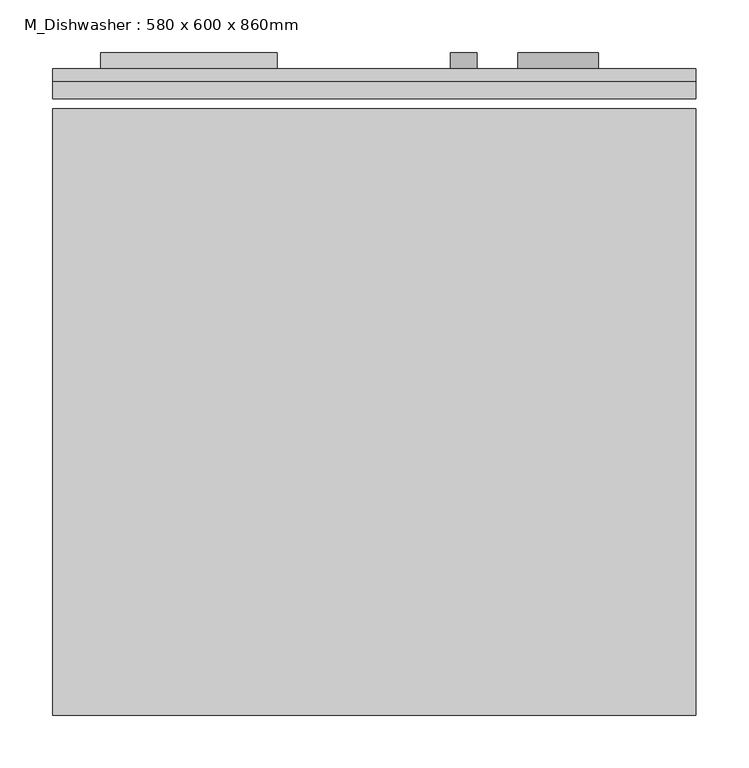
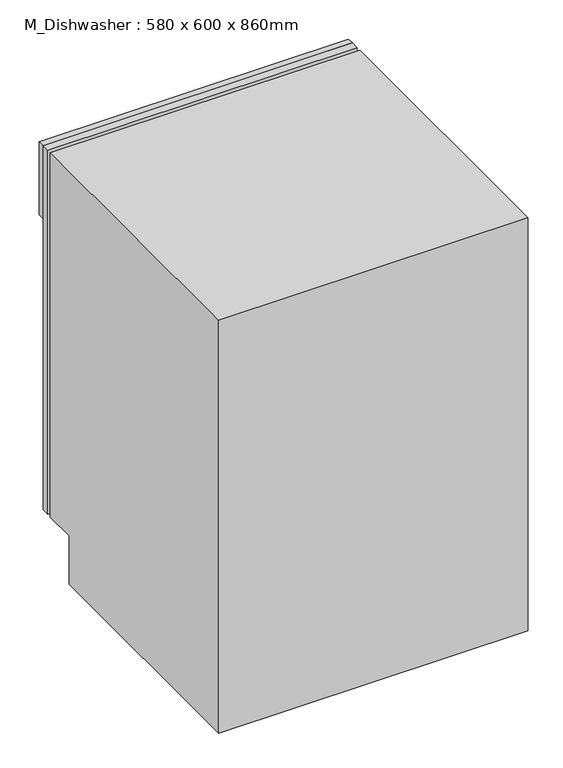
"""IFC4 building model written with IfcOpenShell, lengths in millimetres: proxy geometry, M_Dishwasher : 580 x 600 x 860mm."""

from ifc_helpers import new_model, si_unit, point, frame, frame_2d, origin, place, context, project, spatial, polyline, circle_curve, trimmed, segment, composite_curve, outline, extrude, source, transform, mapped, element, save


def m_dishwasher_580_x_600_x_860mm_caf0502a(model_context):
    return source(origin(), model_context, "Body", "SweptSolid", [
        extrude(outline(polyline([(687.5174685, 38.3504352), (687.5174685, 22.4754352), (77.5174685, 22.4754352), (77.5174685, 38.3504352), (687.5174685, 38.3504352)])), frame((0.0, 0.0, 101.6), z_axis=(0.0, 0.0, 1.0), x_axis=(1.0, 0.0, 0.0)), (0.0, 0.0, 1.0), 758.4),
        extrude(outline(polyline([(687.5174685, 38.3504352), (77.5174685, 38.3504352), (77.5174685, 51.0504352), (687.5174685, 51.0504352), (687.5174685, 38.3504352)])), frame((0.0, 0.0, 707.6), z_axis=(0.0, 0.0, 1.0), x_axis=(1.0, 0.0, 0.0)), (0.0, 0.0, 1.0), 152.4),
        extrude(outline(polyline([(-561.6495648, 0.0), (-561.6495648, 860.0), (12.9504352, 860.0), (12.9504352, 101.6), (-50.5495648, 101.6), (-50.5495648, 0.0), (-561.6495648, 0.0)])), frame((77.5174685, 0.0, 0.0), z_axis=(1.0, 0.0, 0.0), x_axis=(0.0, 1.0, 0.0)), (0.0, 0.0, 1.0), 610.0),
        extrude(outline(polyline([(290.2347603, 66.0504352), (290.2347603, 51.0504352), (122.8347603, 51.0504352), (122.8347603, 66.0504352), (290.2347603, 66.0504352)])), frame((0.0, 0.0, 775.6663551), z_axis=(0.0, 0.0, 1.0), x_axis=(1.0, 0.0, 0.0)), (0.0, 0.0, 1.0), 50.8),
        extrude(outline(composite_curve([segment(trimmed(circle_curve(frame_2d((775.6663551, 467.3393328)), 12.7), [point((775.6663551, 480.0393328))], [point((775.6663551, 454.6393328))], False, "CARTESIAN"), True, "CONTINUOUS"), segment(trimmed(circle_curve(frame_2d((775.6663551, 467.3393328)), 12.7), [point((775.6663551, 454.6393328))], [point((775.6663551, 480.0393328))], False, "CARTESIAN"), True, "CONTINUOUS")], self_intersect=False)), frame((0.0, 51.0504352, 0.0), z_axis=(0.0, 1.0, 0.0), x_axis=(0.0, 0.0, 1.0)), (0.0, 0.0, 1.0), 15.0),
        extrude(outline(composite_curve([segment(trimmed(circle_curve(frame_2d((775.6663551, 556.7855874)), 38.1), [point((775.6663551, 594.8855874))], [point((775.6663551, 518.6855874))], False, "CARTESIAN"), True, "CONTINUOUS"), segment(trimmed(circle_curve(frame_2d((775.6663551, 556.7855874)), 38.1), [point((775.6663551, 518.6855874))], [point((775.6663551, 594.8855874))], False, "CARTESIAN"), True, "CONTINUOUS")], self_intersect=False)), frame((0.0, 51.0504352, 0.0), z_axis=(0.0, 1.0, 0.0), x_axis=(0.0, 0.0, 1.0)), (0.0, 0.0, 1.0), 15.0),
    ])


if __name__ == "__main__":
    model = new_model("IFC4")
    model_context = context("Model", 3, world=origin())
    ifc_project = project(units=[si_unit("LENGTHUNIT", "METRE", prefix="MILLI")], contexts=[model_context])
    site = spatial("IfcSite", under=ifc_project)
    building = spatial("IfcBuilding", under=site)
    placement = place(None, origin())
    m_dishwasher_580_x_600_x_860mm_shape = m_dishwasher_580_x_600_x_860mm_caf0502a(model_context)
    element("IfcBuildingElementProxy", 1, Name="M_Dishwasher : 580 x 600 x 860mm", ObjectType="M_Dishwasher : 580 x 600 x 860mm", at=placement, inside=building, context=model_context, shape_type="MappedRepresentation", body=[
        mapped(m_dishwasher_580_x_600_x_860mm_shape, transform((0.0, 0.0, 0.0), x_axis=(1.0, 0.0, 0.0), y_axis=(0.0, 1.0, 0.0), z_axis=(0.0, 0.0, 1.0))),
    ])
    save(model, "model.ifc")
